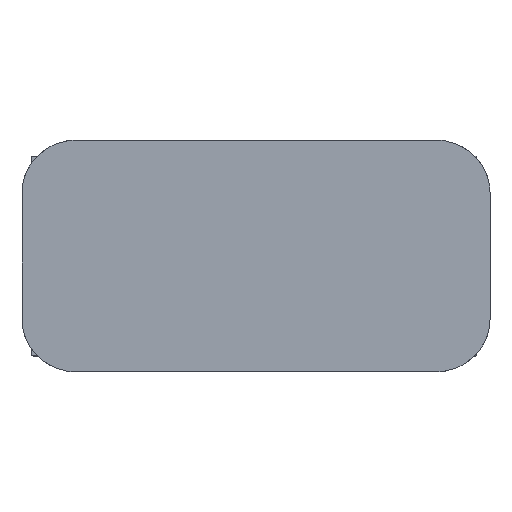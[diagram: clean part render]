
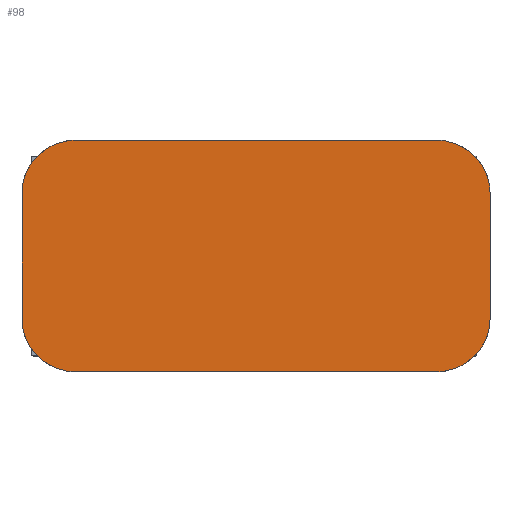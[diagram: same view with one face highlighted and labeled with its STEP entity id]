
A CAD part, top view. The second image highlights one B-rep face of the part: STEP entity #98.
In plain terms, the highlighted planar face has unit normal (0, 0, 1).
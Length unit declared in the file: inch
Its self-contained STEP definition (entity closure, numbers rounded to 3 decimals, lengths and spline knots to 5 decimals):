
#98=ADVANCED_FACE('',(#214),#215,.T.);
#214=FACE_OUTER_BOUND('',#382,.T.);
#215=PLANE('',#383);
#382=EDGE_LOOP('',(#676,#677,#678,#679,#680,#681,#682,#683));
#383=AXIS2_PLACEMENT_3D('',#684,#685,#686);
#676=ORIENTED_EDGE('',*,*,#975,.F.);
#677=ORIENTED_EDGE('',*,*,#976,.F.);
#678=ORIENTED_EDGE('',*,*,#977,.F.);
#679=ORIENTED_EDGE('',*,*,#978,.F.);
#680=ORIENTED_EDGE('',*,*,#979,.F.);
#681=ORIENTED_EDGE('',*,*,#960,.F.);
#682=ORIENTED_EDGE('',*,*,#980,.F.);
#683=ORIENTED_EDGE('',*,*,#981,.F.);
#684=CARTESIAN_POINT('',(1.48431,0.68748,0.38759));
#685=DIRECTION('',(0.0,0.0,1.0));
#686=DIRECTION('',(1.0,0.0,0.0));
#960=EDGE_CURVE('',#1167,#1168,#1169,.T.);
#975=EDGE_CURVE('',#1190,#1191,#1192,.T.);
#976=EDGE_CURVE('',#1193,#1190,#1194,.T.);
#977=EDGE_CURVE('',#1195,#1193,#1196,.T.);
#978=EDGE_CURVE('',#1197,#1195,#1198,.T.);
#979=EDGE_CURVE('',#1168,#1197,#1199,.T.);
#980=EDGE_CURVE('',#1200,#1167,#1201,.T.);
#981=EDGE_CURVE('',#1191,#1200,#1202,.T.);
#1167=VERTEX_POINT('',#1487);
#1168=VERTEX_POINT('',#1488);
#1169=B_SPLINE_CURVE_WITH_KNOTS('',3,(#1489,#1490,#1491,#1492),.UNSPECIFIED.,.F.,.F.,(4,4),(-1.0,-0.0),.UNSPECIFIED.);
#1190=VERTEX_POINT('',#1526);
#1191=VERTEX_POINT('',#1527);
#1192=LINE('',#1528,#1529);
#1193=VERTEX_POINT('',#1530);
#1194=B_SPLINE_CURVE_WITH_KNOTS('',3,(#1531,#1532,#1533,#1534),.UNSPECIFIED.,.F.,.F.,(4,4),(-1.0,-0.0),.UNSPECIFIED.);
#1195=VERTEX_POINT('',#1535);
#1196=LINE('',#1536,#1537);
#1197=VERTEX_POINT('',#1538);
#1198=B_SPLINE_CURVE_WITH_KNOTS('',3,(#1539,#1540,#1541,#1542),.UNSPECIFIED.,.F.,.F.,(4,4),(-1.0,-0.0),.UNSPECIFIED.);
#1199=LINE('',#1543,#1544);
#1200=VERTEX_POINT('',#1545);
#1201=LINE('',#1546,#1547);
#1202=B_SPLINE_CURVE_WITH_KNOTS('',3,(#1548,#1549,#1550,#1551),.UNSPECIFIED.,.F.,.F.,(4,4),(-1.0,-0.0),.UNSPECIFIED.);
#1487=CARTESIAN_POINT('',(0.24911,-0.10937,0.38759));
#1488=CARTESIAN_POINT('',(-0.125,0.25365,0.38759));
#1489=CARTESIAN_POINT('',(0.24911,-0.10937,0.38759));
#1490=CARTESIAN_POINT('',(0.04249,-0.10937,0.38759));
#1491=CARTESIAN_POINT('',(-0.125,0.05319,0.38759));
#1492=CARTESIAN_POINT('',(-0.125,0.25365,0.38759));
#1526=CARTESIAN_POINT('',(3.09362,1.12129,0.38759));
#1527=CARTESIAN_POINT('',(3.09362,0.25365,0.38759));
#1528=CARTESIAN_POINT('',(3.09362,0.25365,0.38759));
#1529=VECTOR('',#1765,1.0);
#1530=CARTESIAN_POINT('',(2.71952,1.48433,0.38759));
#1531=CARTESIAN_POINT('',(2.71952,1.48433,0.38759));
#1532=CARTESIAN_POINT('',(2.92613,1.48433,0.38759));
#1533=CARTESIAN_POINT('',(3.09362,1.3218,0.38759));
#1534=CARTESIAN_POINT('',(3.09362,1.12129,0.38759));
#1535=CARTESIAN_POINT('',(0.24911,1.48433,0.38759));
#1536=CARTESIAN_POINT('',(2.71952,1.48433,0.38759));
#1537=VECTOR('',#1766,1.0);
#1538=CARTESIAN_POINT('',(-0.125,1.12129,0.38759));
#1539=CARTESIAN_POINT('',(-0.125,1.12129,0.38759));
#1540=CARTESIAN_POINT('',(-0.125,1.3218,0.38759));
#1541=CARTESIAN_POINT('',(0.04249,1.48433,0.38759));
#1542=CARTESIAN_POINT('',(0.24911,1.48433,0.38759));
#1543=CARTESIAN_POINT('',(-0.125,1.12129,0.38759));
#1544=VECTOR('',#1767,1.0);
#1545=CARTESIAN_POINT('',(2.71952,-0.10937,0.38759));
#1546=CARTESIAN_POINT('',(0.24911,-0.10937,0.38759));
#1547=VECTOR('',#1768,1.0);
#1548=CARTESIAN_POINT('',(3.09362,0.25365,0.38759));
#1549=CARTESIAN_POINT('',(3.09362,0.05319,0.38759));
#1550=CARTESIAN_POINT('',(2.92613,-0.10937,0.38759));
#1551=CARTESIAN_POINT('',(2.71952,-0.10937,0.38759));
#1765=DIRECTION('',(-0.0,-1.0,-0.0));
#1766=DIRECTION('',(1.0,0.0,0.0));
#1767=DIRECTION('',(0.0,1.0,0.0));
#1768=DIRECTION('',(-1.0,-0.0,-0.0));
